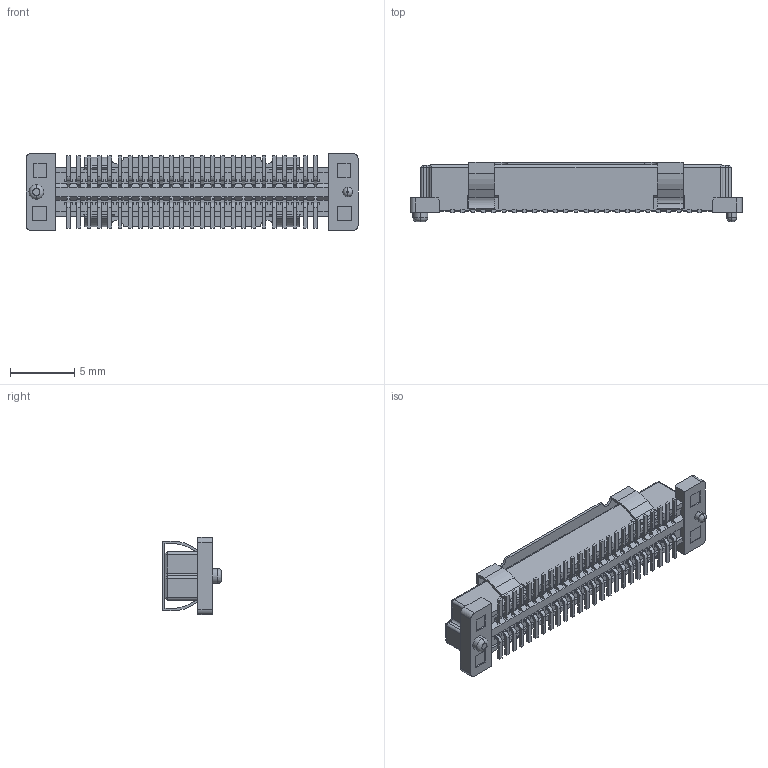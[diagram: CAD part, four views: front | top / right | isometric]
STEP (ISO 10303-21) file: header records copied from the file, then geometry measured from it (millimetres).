
FILE_DESCRIPTION (( 'STEP AP203' ), '1' );
FILE_NAME ('HC-PBB08-1-50-F-HX-XX-R-P-06 (BTB0.8 单槽 母座 立贴 带柱 编带+盖)-HCTL.STEP', '2025-12-18T01:20:01', ( '' ), ( '' ), 'SwSTEP 2.0', 'SolidWorks 2025', '' );
FILE_SCHEMA (( 'CONFIG_CONTROL_DESIGN' ));
Length unit declared in the file: millimetre
Products named in the file (1): HC-PBB08-1-50-F-HX-XX-R-P-06 (BTB0.8 单槽 母座 立贴 带柱 编带+盖)-HCTL
Bounding box: 25.8 x 4.6 x 6 mm (x, y, z)
Volume: 275.6 mm3; surface area: 1207 mm2
Topology: 2 solids, 2 shells, 2800 faces, 8528 edges, 5544 vertices
Faces by surface type: plane 2136, cylinder 644, bspline 8, cone 8, torus 4
Entity records: 96157 total; most frequent: CARTESIAN_POINT 19103, ORIENTED_EDGE 17056, DIRECTION 14994, EDGE_CURVE 8528, VECTOR 7208, LINE 7208, VERTEX_POINT 5544, AXIS2_PLACEMENT_3D 3893
